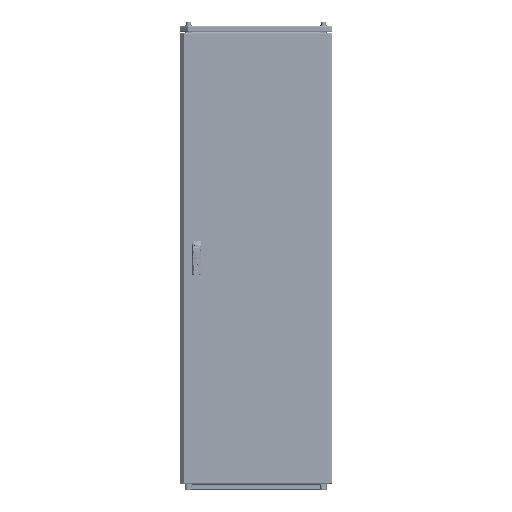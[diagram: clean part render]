
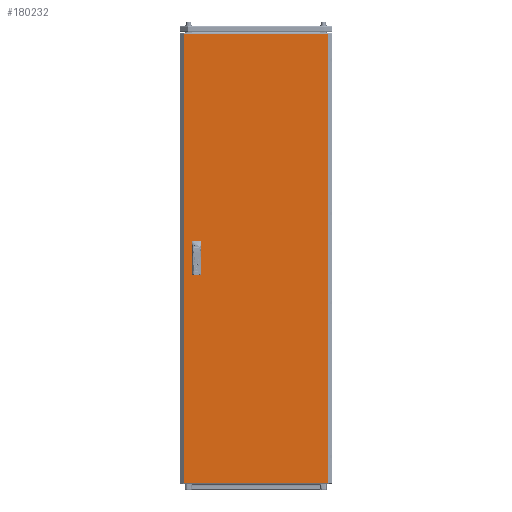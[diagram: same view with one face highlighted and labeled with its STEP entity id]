
A CAD part, top view. The second image highlights one B-rep face of the part: STEP entity #180232.
In plain terms, the highlighted planar face has unit normal (0, 0, 1).
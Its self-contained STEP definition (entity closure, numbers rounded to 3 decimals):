
#3313 = LINE ( 'NONE', #104397, #169579 ) ;
#5887 = EDGE_CURVE ( 'NONE', #202001, #233515, #35886, .T. ) ;
#7084 = EDGE_CURVE ( 'NONE', #43145, #147408, #10377, .T. ) ;
#8987 = EDGE_CURVE ( 'NONE', #214164, #38415, #3313, .T. ) ;
#10377 = LINE ( 'NONE', #184831, #117113 ) ;
#12639 = EDGE_LOOP ( 'NONE', ( #32424, #54226, #41442, #98142 ) ) ;
#13133 = VECTOR ( 'NONE', #150448, 1000. ) ;
#13708 = EDGE_LOOP ( 'NONE', ( #112457, #50792, #211926, #156951 ) ) ;
#13926 = CARTESIAN_POINT ( 'NONE',  ( -242.5, -12.5, 0. ) ) ;
#17528 = VECTOR ( 'NONE', #20386, 1000. ) ;
#20386 = DIRECTION ( 'NONE',  ( 0., 1., 0. ) ) ;
#21638 = CARTESIAN_POINT ( 'NONE',  ( -217.5, 12.5, 0. ) ) ;
#24114 = LINE ( 'NONE', #21638, #17528 ) ;
#24943 = FACE_BOUND ( 'NONE', #242777, .T. ) ;
#32424 = ORIENTED_EDGE ( 'NONE', *, *, #234610, .T. ) ;
#35869 = ORIENTED_EDGE ( 'NONE', *, *, #7084, .F. ) ;
#35886 = LINE ( 'NONE', #234289, #182609 ) ;
#38415 = VERTEX_POINT ( 'NONE', #219593 ) ;
#41442 = ORIENTED_EDGE ( 'NONE', *, *, #204208, .T. ) ;
#43145 = VERTEX_POINT ( 'NONE', #130908 ) ;
#44871 = CARTESIAN_POINT ( 'NONE',  ( -217.5, -62.5, 0. ) ) ;
#48080 = CARTESIAN_POINT ( 'NONE',  ( -242.5, -62.5, 0. ) ) ;
#48312 = ORIENTED_EDGE ( 'NONE', *, *, #5887, .F. ) ;
#50792 = ORIENTED_EDGE ( 'NONE', *, *, #111083, .F. ) ;
#51780 = LINE ( 'NONE', #128940, #114345 ) ;
#54077 = EDGE_CURVE ( 'NONE', #38415, #228119, #51780, .T. ) ;
#54226 = ORIENTED_EDGE ( 'NONE', *, *, #205328, .T. ) ;
#68041 = DIRECTION ( 'NONE',  ( 0., 1., 0. ) ) ;
#73317 = LINE ( 'NONE', #13926, #13133 ) ;
#76095 = VERTEX_POINT ( 'NONE', #132912 ) ;
#77636 = DIRECTION ( 'NONE',  ( 1., 0., 0. ) ) ;
#83836 = EDGE_CURVE ( 'NONE', #233515, #43145, #73317, .T. ) ;
#84319 = PLANE ( 'NONE',  #249454 ) ;
#85580 = VECTOR ( 'NONE', #123242, 1000. ) ;
#88764 = DIRECTION ( 'NONE',  ( 0., -1., 0. ) ) ;
#95309 = DIRECTION ( 'NONE',  ( 0., 1., 0. ) ) ;
#96639 = LINE ( 'NONE', #48080, #240053 ) ;
#98142 = ORIENTED_EDGE ( 'NONE', *, *, #248175, .T. ) ;
#98370 = EDGE_CURVE ( 'NONE', #147408, #202001, #96639, .T. ) ;
#99580 = DIRECTION ( 'NONE',  ( 1., 0., 0. ) ) ;
#102079 = CARTESIAN_POINT ( 'NONE',  ( 0., 0., 0. ) ) ;
#102286 = LINE ( 'NONE', #240038, #201673 ) ;
#104397 = CARTESIAN_POINT ( 'NONE',  ( -242.5, 62.5, 0. ) ) ;
#111083 = EDGE_CURVE ( 'NONE', #76095, #214164, #24114, .T. ) ;
#112457 = ORIENTED_EDGE ( 'NONE', *, *, #8987, .F. ) ;
#114345 = VECTOR ( 'NONE', #206019, 1000. ) ;
#115733 = CARTESIAN_POINT ( 'NONE',  ( -242.5, 12.5, 0. ) ) ;
#116954 = CARTESIAN_POINT ( 'NONE',  ( -217.5, 62.5, 0. ) ) ;
#117113 = VECTOR ( 'NONE', #88764, 1000. ) ;
#121060 = FACE_BOUND ( 'NONE', #13708, .T. ) ;
#123242 = DIRECTION ( 'NONE',  ( -1., 0., 0. ) ) ;
#126890 = VERTEX_POINT ( 'NONE', #245671 ) ;
#128940 = CARTESIAN_POINT ( 'NONE',  ( -242.5, 12.5, 0. ) ) ;
#130908 = CARTESIAN_POINT ( 'NONE',  ( -242.5, -12.5, 0. ) ) ;
#132912 = CARTESIAN_POINT ( 'NONE',  ( -217.5, 12.5, 0. ) ) ;
#133443 = LINE ( 'NONE', #115733, #137516 ) ;
#137516 = VECTOR ( 'NONE', #192801, 1000. ) ;
#140476 = CARTESIAN_POINT ( 'NONE',  ( -217.5, -12.5, 0. ) ) ;
#147408 = VERTEX_POINT ( 'NONE', #248728 ) ;
#150448 = DIRECTION ( 'NONE',  ( -1., 0., 0. ) ) ;
#152935 = EDGE_CURVE ( 'NONE', #228119, #76095, #133443, .T. ) ;
#156028 = CARTESIAN_POINT ( 'NONE',  ( -242.5, 12.5, 0. ) ) ;
#156951 = ORIENTED_EDGE ( 'NONE', *, *, #54077, .F. ) ;
#160181 = DIRECTION ( 'NONE',  ( -1., 0., 0. ) ) ;
#161391 = LINE ( 'NONE', #233609, #222937 ) ;
#169579 = VECTOR ( 'NONE', #197941, 1000. ) ;
#172784 = LINE ( 'NONE', #249929, #202161 ) ;
#178191 = VERTEX_POINT ( 'NONE', #190049 ) ;
#178869 = VERTEX_POINT ( 'NONE', #232430 ) ;
#180089 = LINE ( 'NONE', #181315, #85580 ) ;
#180232 = ADVANCED_FACE ( 'NONE', ( #121060, #24943, #182888 ), #84319, .F. ) ;
#181315 = CARTESIAN_POINT ( 'NONE',  ( -277.875, 869.5, 0. ) ) ;
#182609 = VECTOR ( 'NONE', #95309, 1000. ) ;
#182888 = FACE_OUTER_BOUND ( 'NONE', #12639, .T. ) ;
#184831 = CARTESIAN_POINT ( 'NONE',  ( -242.5, -62.5, 0. ) ) ;
#190049 = CARTESIAN_POINT ( 'NONE',  ( -277.875, -869.5, 0. ) ) ;
#192801 = DIRECTION ( 'NONE',  ( 1., 0., 0. ) ) ;
#197941 = DIRECTION ( 'NONE',  ( -1., 0., 0. ) ) ;
#198773 = VERTEX_POINT ( 'NONE', #224714 ) ;
#199779 = ORIENTED_EDGE ( 'NONE', *, *, #98370, .F. ) ;
#200252 = ORIENTED_EDGE ( 'NONE', *, *, #83836, .F. ) ;
#201673 = VECTOR ( 'NONE', #68041, 1000. ) ;
#202001 = VERTEX_POINT ( 'NONE', #44871 ) ;
#202161 = VECTOR ( 'NONE', #230967, 1000. ) ;
#204208 = EDGE_CURVE ( 'NONE', #126890, #178191, #172784, .T. ) ;
#205328 = EDGE_CURVE ( 'NONE', #178869, #126890, #180089, .T. ) ;
#206019 = DIRECTION ( 'NONE',  ( 0., -1., 0. ) ) ;
#211926 = ORIENTED_EDGE ( 'NONE', *, *, #152935, .F. ) ;
#214164 = VERTEX_POINT ( 'NONE', #116954 ) ;
#219593 = CARTESIAN_POINT ( 'NONE',  ( -242.5, 62.5, 0. ) ) ;
#222937 = VECTOR ( 'NONE', #99580, 1000. ) ;
#224714 = CARTESIAN_POINT ( 'NONE',  ( 277.875, -869.5, 0. ) ) ;
#228119 = VERTEX_POINT ( 'NONE', #156028 ) ;
#230967 = DIRECTION ( 'NONE',  ( 0., -1., 0. ) ) ;
#232430 = CARTESIAN_POINT ( 'NONE',  ( 277.875, 869.5, 0. ) ) ;
#233515 = VERTEX_POINT ( 'NONE', #140476 ) ;
#233609 = CARTESIAN_POINT ( 'NONE',  ( -277.875, -869.5, 0. ) ) ;
#234289 = CARTESIAN_POINT ( 'NONE',  ( -217.5, -62.5, 0. ) ) ;
#234610 = EDGE_CURVE ( 'NONE', #198773, #178869, #102286, .T. ) ;
#237340 = DIRECTION ( 'NONE',  ( 0., 0., -1. ) ) ;
#240038 = CARTESIAN_POINT ( 'NONE',  ( 277.875, -869.5, 0. ) ) ;
#240053 = VECTOR ( 'NONE', #77636, 1000. ) ;
#242777 = EDGE_LOOP ( 'NONE', ( #200252, #48312, #199779, #35869 ) ) ;
#245671 = CARTESIAN_POINT ( 'NONE',  ( -277.875, 869.5, 0. ) ) ;
#248175 = EDGE_CURVE ( 'NONE', #178191, #198773, #161391, .T. ) ;
#248728 = CARTESIAN_POINT ( 'NONE',  ( -242.5, -62.5, 0. ) ) ;
#249454 = AXIS2_PLACEMENT_3D ( 'NONE', #102079, #237340, #160181 ) ;
#249929 = CARTESIAN_POINT ( 'NONE',  ( -277.875, -869.5, 0. ) ) ;
